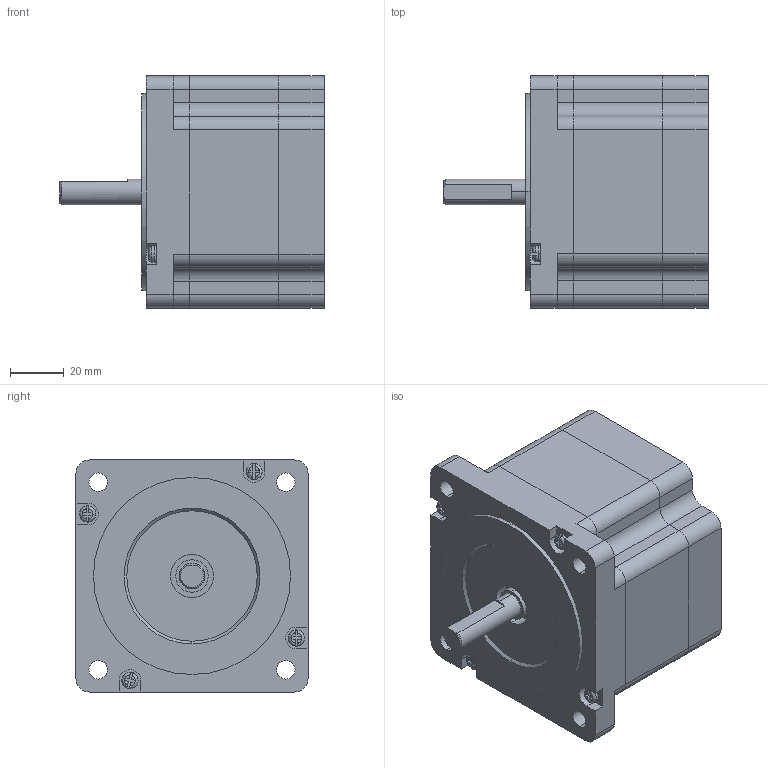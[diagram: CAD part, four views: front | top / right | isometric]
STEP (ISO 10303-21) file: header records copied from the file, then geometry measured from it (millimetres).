
FILE_DESCRIPTION (( 'STEP AP203' ), '1' );
FILE_NAME ('86J1865-828(Z)郔陔芞.STEP', '2019-09-24T01:20:42', ( 'USER-' ), ( 'MS' ), 'SwSTEP 2.0', 'SolidWorks 2015', '' );
FILE_SCHEMA (( 'CONFIG_CONTROL_DESIGN' ));
Length unit declared in the file: millimetre
Products named in the file (5): 86J1865-828 Z 綴裔; 86J奻裔晦粣DIA9.5mm; 86J1865-828(Z)郔陔芞; M4 蹟佪芛_1; 86J1865-828 (Z) 儂旯
Assembly tree (7 placements, depth 2):
  86J1865-828(Z)郔陔芞
    M4 蹟佪芛_1  x4
    86J1865-828 (Z) 儂旯
    86J1865-828 Z 綴裔
    86J奻裔晦粣DIA9.5mm
Bounding box: 98 x 86 x 86 mm (x, y, z)
Volume: 256259.4 mm3; surface area: 66556.4 mm2
Topology: 7 solids, 7 shells, 279 faces, 760 edges, 501 vertices
Faces by surface type: plane 134, cylinder 125, bspline 16, cone 4
Entity records: 7005 total; most frequent: CARTESIAN_POINT 1210, DIRECTION 1134, ORIENTED_EDGE 1076, EDGE_CURVE 538, AXIS2_PLACEMENT_3D 405, VERTEX_POINT 357, VECTOR 324, LINE 324
